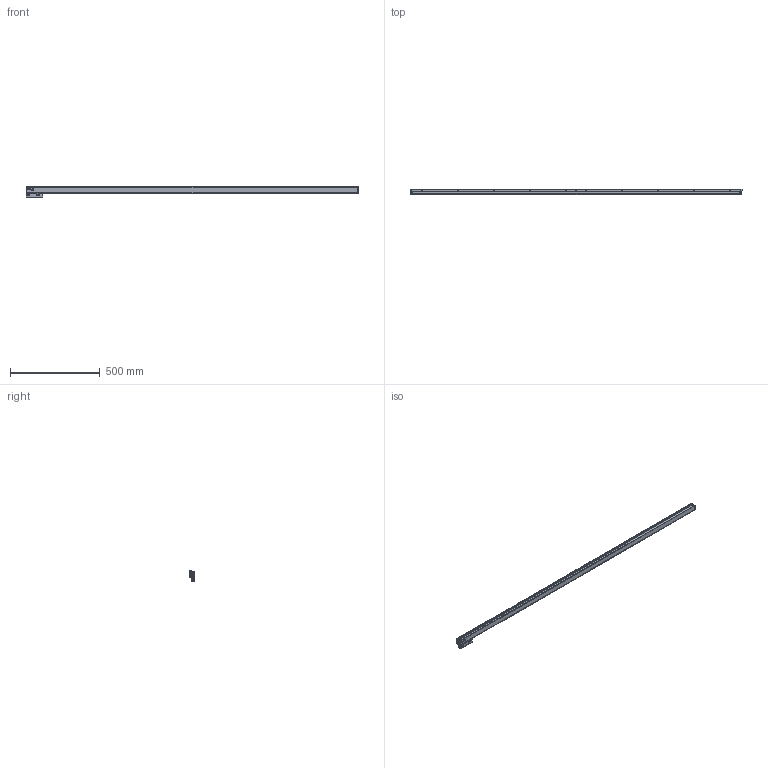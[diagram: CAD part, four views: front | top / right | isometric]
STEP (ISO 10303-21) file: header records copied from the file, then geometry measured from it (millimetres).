
FILE_DESCRIPTION(('Creo Elements/Direct Modeling STEP Export'),'2;1');
FILE_NAME('Regla SV2-1740-T-V01A.stp','2022-11-30T10:03:16',(''),(''),'Creo Elements/Direct Modeling STEP processor for AP214 (Solid Model)','Creo Elements/Direct Modeling 20.4A 18-Oct-2021 (C) Parametric Technology GmbH','');
FILE_SCHEMA(('AUTOMOTIVE_DESIGN { 1 0 10303 214 1 1 1 1 }'));
Products named in the file (4): SOPORTE_SV3-1740; REGLA_SV2-1740-T; CABEZA_ROSCADA_REGLA_SV2-T; REGLA_SV2-1740-T-V01A
Assembly tree (3 placements, depth 2):
  REGLA_SV2-1740-T-V01A
    CABEZA_ROSCADA_REGLA_SV2-T
    REGLA_SV2-1740-T
    SOPORTE_SV3-1740
Bounding box: 1845 x 28 x 56.2 mm (x, y, z)
Volume: 1430296.2 mm3; surface area: 514589 mm2
Topology: 3 solids, 24 shells, 2949 faces, 8499 edges, 5590 vertices
Faces by surface type: plane 1516, cylinder 1014, cone 264, bspline 106, torus 42, sphere 4, extrusion 3
Entity records: 110928 total; most frequent: CARTESIAN_POINT 26330, ORIENTED_EDGE 16954, DIRECTION 14305, EDGE_CURVE 8477, VERTEX_POINT 5590, AXIS2_PLACEMENT_3D 4800, VECTOR 4705, LINE 4702
